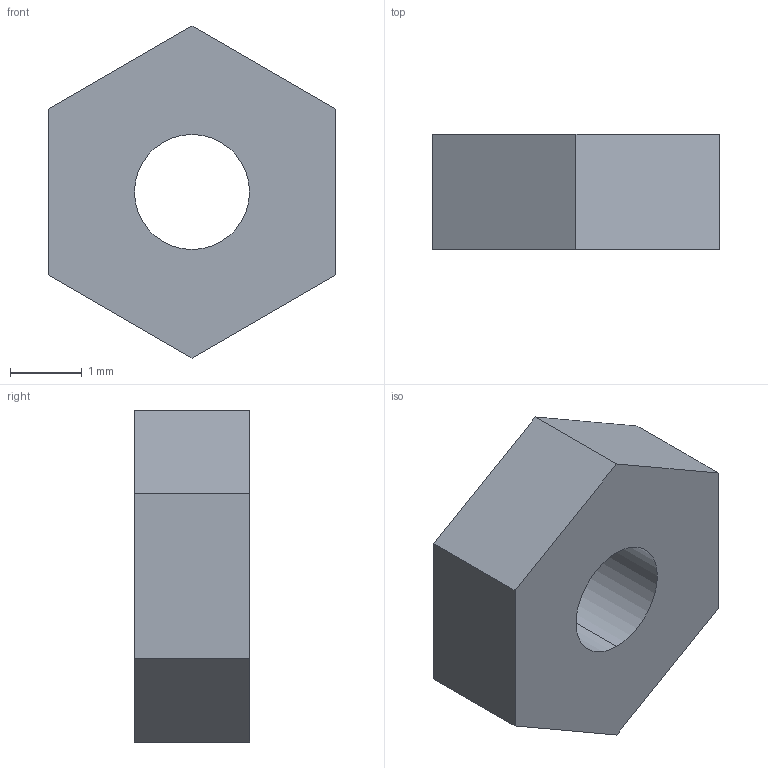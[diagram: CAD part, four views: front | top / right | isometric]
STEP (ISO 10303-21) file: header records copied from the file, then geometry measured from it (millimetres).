
FILE_DESCRIPTION(('Open CASCADE Model'),'2;1');
FILE_NAME('short-pivot-m2-hex-nut.step','2026-11-14T14:31:59',('Author') ,('Open CASCADE'),'Open CASCADE STEP processor 8.0','Open CASCADE 8.0' ,'Unknown');
FILE_SCHEMA(('AP242_MANAGED_MODEL_BASED_3D_ENGINEERING_MIM_LF {1 0 10303 442 1 1 4 }' ));
Length unit declared in the file: millimetre
Products named in the file (1): Short Pivot M2 Hex Nut
Bounding box: 4 x 1.6 x 4.62 mm (x, y, z)
Volume: 19 mm3; surface area: 53.9 mm2
Topology: 1 solids, 1 shells, 10 faces, 24 edges, 16 vertices
Faces by surface type: plane 8, cylinder 2
Entity records: 624 total; most frequent: CARTESIAN_POINT 111, DIRECTION 96, LINE 64, VECTOR 64, ORIENTED_EDGE 48, PCURVE 48, DEFINITIONAL_REPRESENTATION 48, EDGE_CURVE 24
